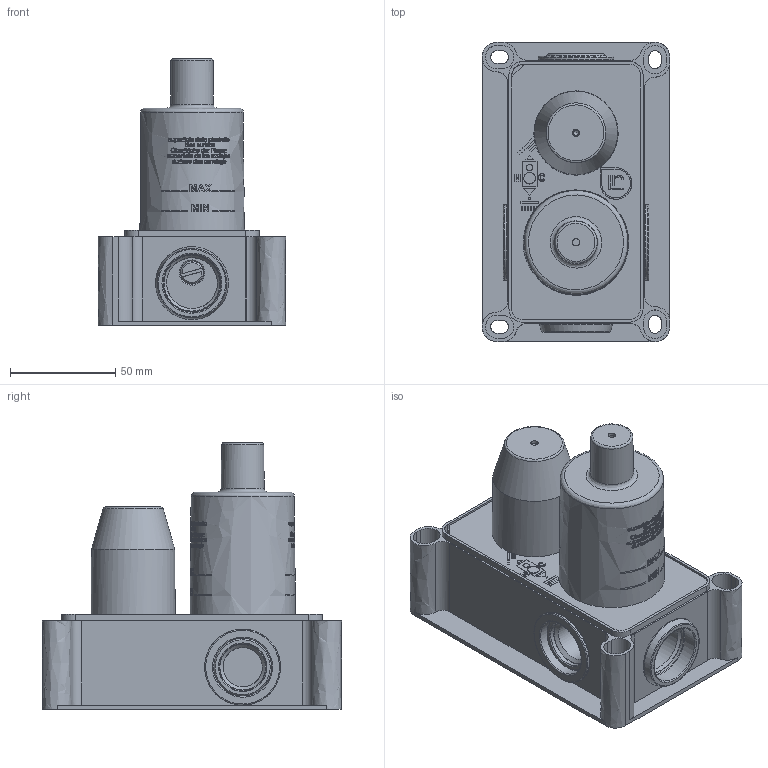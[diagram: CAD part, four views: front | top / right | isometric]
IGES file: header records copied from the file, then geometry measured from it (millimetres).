
Global section: file name: PM0020M; native system: Autodesk Inventor 2017; preprocessor: unknown; author: CIANI; date: 20210731.083906; units: millimetre
Bounding box: 89 x 142 x 126.5 mm (x, y, z)
Volume: 315950.2 mm3; surface area: 155327.5 mm2
Topology: 1 solids, 2 shells, 4095 faces, 11013 edges, 7305 vertices
Faces by surface type: bspline 4095
